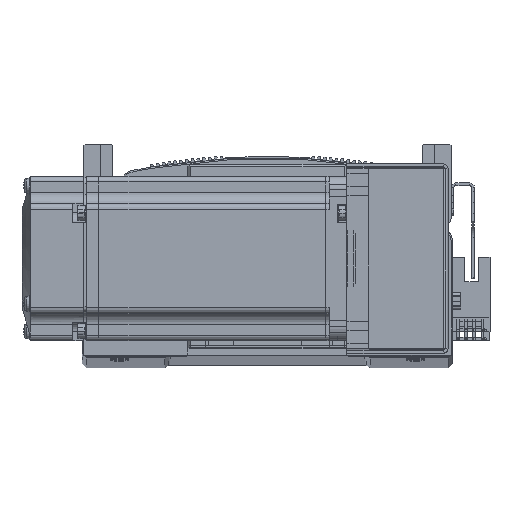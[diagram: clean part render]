
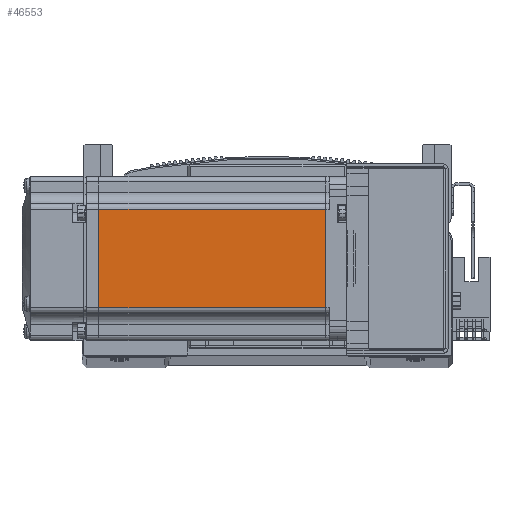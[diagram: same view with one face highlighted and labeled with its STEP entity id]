
A CAD part, top view. The second image highlights one B-rep face of the part: STEP entity #46553.
In plain terms, the highlighted planar face has unit normal (0, 0, 1) as drawn and (0, -1, 0) by its records, which use the part's own axes.
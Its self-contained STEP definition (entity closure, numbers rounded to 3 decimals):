
#3006 = CARTESIAN_POINT ( 'NONE',  ( -7.75, -30., 0. ) ) ;
#3008 = CARTESIAN_POINT ( 'NONE',  ( -90.45, -30., 0. ) ) ;
#3017 = DIRECTION ( 'NONE',  ( 0., 0., -1. ) ) ;
#3018 = DIRECTION ( 'NONE',  ( 0., 0., -1. ) ) ;
#3290 = CARTESIAN_POINT ( 'NONE',  ( -6.5, -30., -18. ) ) ;
#3321 = DIRECTION ( 'NONE',  ( -1., 0., 0. ) ) ;
#3379 = DIRECTION ( 'NONE',  ( -1., 0., 0. ) ) ;
#3382 = CARTESIAN_POINT ( 'NONE',  ( -6.5, -30., 18. ) ) ;
#10923 = LINE ( 'NONE', #3008, #10983 ) ;
#10983 = VECTOR ( 'NONE', #3018, 1000. ) ;
#11111 = LINE ( 'NONE', #3006, #11113 ) ;
#11113 = VECTOR ( 'NONE', #3017, 1000. ) ;
#14809 = VECTOR ( 'NONE', #3321, 1000. ) ;
#14830 = LINE ( 'NONE', #3290, #14809 ) ;
#14856 = LINE ( 'NONE', #3382, #14946 ) ;
#14946 = VECTOR ( 'NONE', #3379, 1000. ) ;
#25601 = PLANE ( 'NONE',  #39542 ) ;
#25634 = DIRECTION ( 'NONE',  ( 0., 0., -1. ) ) ;
#25638 = DIRECTION ( 'NONE',  ( 0., -1., 0. ) ) ;
#25673 = CARTESIAN_POINT ( 'NONE',  ( -6.5, -30., -25. ) ) ;
#27134 = CARTESIAN_POINT ( 'NONE',  ( -90.45, -30., 18. ) ) ;
#27137 = CARTESIAN_POINT ( 'NONE',  ( -7.75, -30., 18. ) ) ;
#27286 = CARTESIAN_POINT ( 'NONE',  ( -7.75, -30., -18. ) ) ;
#27360 = CARTESIAN_POINT ( 'NONE',  ( -90.45, -30., -18. ) ) ;
#39542 = AXIS2_PLACEMENT_3D ( 'NONE', #25673, #25638, #25634 ) ;
#43712 = VERTEX_POINT ( 'NONE', #27134 ) ;
#43749 = VERTEX_POINT ( 'NONE', #27137 ) ;
#43892 = VERTEX_POINT ( 'NONE', #27286 ) ;
#43920 = VERTEX_POINT ( 'NONE', #27360 ) ;
#46553 = ADVANCED_FACE ( 'NONE', ( #83017 ), #25601, .T. ) ;
#55679 = EDGE_LOOP ( 'NONE', ( #63877, #63794, #63781, #63741 ) ) ;
#63741 = ORIENTED_EDGE ( 'NONE', *, *, #78882, .F. ) ;
#63781 = ORIENTED_EDGE ( 'NONE', *, *, #78764, .T. ) ;
#63794 = ORIENTED_EDGE ( 'NONE', *, *, #78922, .T. ) ;
#63877 = ORIENTED_EDGE ( 'NONE', *, *, #78752, .F. ) ;
#78752 = EDGE_CURVE ( 'NONE', #43749, #43892, #11111, .T. ) ;
#78764 = EDGE_CURVE ( 'NONE', #43712, #43920, #10923, .T. ) ;
#78882 = EDGE_CURVE ( 'NONE', #43892, #43920, #14830, .T. ) ;
#78922 = EDGE_CURVE ( 'NONE', #43749, #43712, #14856, .T. ) ;
#83017 = FACE_OUTER_BOUND ( 'NONE', #55679, .T. ) ;
